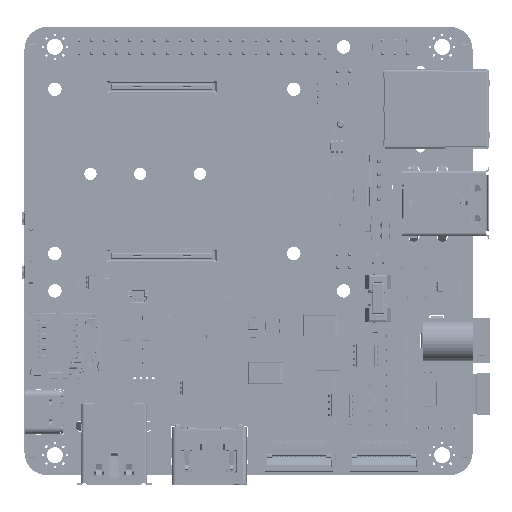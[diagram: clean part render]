
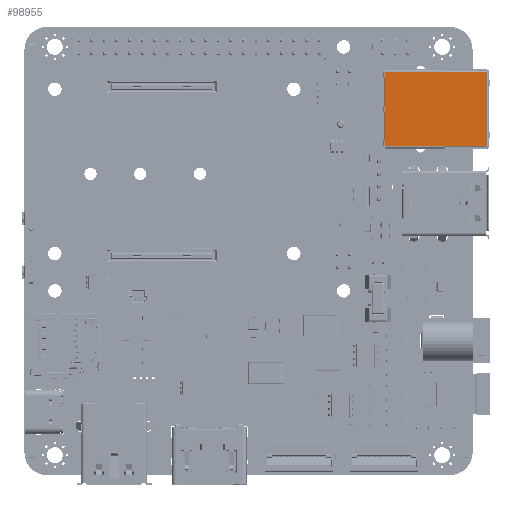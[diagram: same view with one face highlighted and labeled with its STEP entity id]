
A CAD part, top view. The second image highlights one B-rep face of the part: STEP entity #98955.
In plain terms, the highlighted planar face has unit normal (0, 0, 1) as drawn and (0, 1, 0) by its records, which use the part's own axes.
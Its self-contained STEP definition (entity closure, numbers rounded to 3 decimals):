
#96891 = VERTEX_POINT('',#96892);
#96892 = CARTESIAN_POINT('',(0.65,13.65,-10.225));
#96898 = EDGE_CURVE('',#96899,#96891,#96901,.T.);
#96899 = VERTEX_POINT('',#96900);
#96900 = CARTESIAN_POINT('',(0.65,13.65,-10.125));
#96901 = LINE('',#96902,#96903);
#96902 = CARTESIAN_POINT('',(0.65,13.65,-10.125));
#96903 = VECTOR('',#96904,1.);
#96904 = DIRECTION('',(0.,0.,-1.));
#97000 = EDGE_CURVE('',#97001,#97003,#97005,.T.);
#97001 = VERTEX_POINT('',#97002);
#97002 = CARTESIAN_POINT('',(6.15,13.65,-10.125));
#97003 = VERTEX_POINT('',#97004);
#97004 = CARTESIAN_POINT('',(6.15,13.65,-10.225));
#97005 = LINE('',#97006,#97007);
#97006 = CARTESIAN_POINT('',(6.15,13.65,-10.125));
#97007 = VECTOR('',#97008,1.);
#97008 = DIRECTION('',(0.,0.,-1.));
#97080 = EDGE_CURVE('',#97081,#97083,#97085,.T.);
#97081 = VERTEX_POINT('',#97082);
#97082 = CARTESIAN_POINT('',(-0.65,13.65,-10.125));
#97083 = VERTEX_POINT('',#97084);
#97084 = CARTESIAN_POINT('',(-0.65,13.65,-10.225));
#97085 = LINE('',#97086,#97087);
#97086 = CARTESIAN_POINT('',(-0.65,13.65,-10.125));
#97087 = VECTOR('',#97088,1.);
#97088 = DIRECTION('',(0.,0.,-1.));
#97131 = VERTEX_POINT('',#97132);
#97132 = CARTESIAN_POINT('',(-6.15,13.65,-10.225));
#97138 = EDGE_CURVE('',#97139,#97131,#97141,.T.);
#97139 = VERTEX_POINT('',#97140);
#97140 = CARTESIAN_POINT('',(-6.15,13.65,-10.125));
#97141 = LINE('',#97142,#97143);
#97142 = CARTESIAN_POINT('',(-6.15,13.65,-10.125));
#97143 = VECTOR('',#97144,1.);
#97144 = DIRECTION('',(0.,0.,-1.));
#97207 = EDGE_CURVE('',#97208,#97003,#97210,.T.);
#97208 = VERTEX_POINT('',#97209);
#97209 = CARTESIAN_POINT('',(7.4,13.65,-10.225));
#97210 = LINE('',#97211,#97212);
#97211 = CARTESIAN_POINT('',(0.,13.65,-10.225));
#97212 = VECTOR('',#97213,1.);
#97213 = DIRECTION('',(-1.,0.,0.));
#97254 = VERTEX_POINT('',#97255);
#97255 = CARTESIAN_POINT('',(-7.4,13.65,-10.225));
#97262 = EDGE_CURVE('',#97131,#97254,#97263,.T.);
#97263 = LINE('',#97264,#97265);
#97264 = CARTESIAN_POINT('',(0.,13.65,-10.225));
#97265 = VECTOR('',#97266,1.);
#97266 = DIRECTION('',(-1.,0.,0.));
#97678 = VERTEX_POINT('',#97679);
#97679 = CARTESIAN_POINT('',(7.4,13.65,1.775));
#97685 = EDGE_CURVE('',#97686,#97678,#97688,.T.);
#97686 = VERTEX_POINT('',#97687);
#97687 = CARTESIAN_POINT('',(7.4,13.65,10.225));
#97688 = LINE('',#97689,#97690);
#97689 = CARTESIAN_POINT('',(7.4,13.65,0.));
#97690 = VECTOR('',#97691,1.);
#97691 = DIRECTION('',(0.,0.,-1.));
#97716 = VERTEX_POINT('',#97717);
#97717 = CARTESIAN_POINT('',(-7.4,13.65,-10.125));
#97723 = EDGE_CURVE('',#97254,#97716,#97724,.T.);
#97724 = LINE('',#97725,#97726);
#97725 = CARTESIAN_POINT('',(-7.4,13.65,0.));
#97726 = VECTOR('',#97727,1.);
#97727 = DIRECTION('',(0.,0.,1.));
#98804 = VERTEX_POINT('',#98805);
#98805 = CARTESIAN_POINT('',(-7.4,13.65,10.225));
#98860 = EDGE_CURVE('',#97686,#98804,#98861,.T.);
#98861 = LINE('',#98862,#98863);
#98862 = CARTESIAN_POINT('',(-7.4,13.65,10.225));
#98863 = VECTOR('',#98864,1.);
#98864 = DIRECTION('',(-1.,0.,0.));
#98892 = EDGE_CURVE('',#98893,#98804,#98895,.T.);
#98893 = VERTEX_POINT('',#98894);
#98894 = CARTESIAN_POINT('',(-7.4,13.65,1.775));
#98895 = LINE('',#98896,#98897);
#98896 = CARTESIAN_POINT('',(-7.4,13.65,0.));
#98897 = VECTOR('',#98898,1.);
#98898 = DIRECTION('',(0.,0.,1.));
#98923 = EDGE_CURVE('',#98924,#97208,#98926,.T.);
#98924 = VERTEX_POINT('',#98925);
#98925 = CARTESIAN_POINT('',(7.4,13.65,-10.125));
#98926 = LINE('',#98927,#98928);
#98927 = CARTESIAN_POINT('',(7.4,13.65,0.));
#98928 = VECTOR('',#98929,1.);
#98929 = DIRECTION('',(0.,0.,-1.));
#98955 = ADVANCED_FACE('',(#98956),#99031,.F.);
#98956 = FACE_BOUND('',#98957,.T.);
#98957 = EDGE_LOOP('',(#98958,#98959,#98960,#98966,#98967,#98973,#98974,
    #98980,#98981,#98982,#98983,#98991,#98999,#99005,#99006,#99007,
    #99008,#99016,#99024,#99030));
#98958 = ORIENTED_EDGE('',*,*,#97207,.T.);
#98959 = ORIENTED_EDGE('',*,*,#97000,.F.);
#98960 = ORIENTED_EDGE('',*,*,#98961,.F.);
#98961 = EDGE_CURVE('',#96899,#97001,#98962,.T.);
#98962 = LINE('',#98963,#98964);
#98963 = CARTESIAN_POINT('',(6.15,13.65,-10.125));
#98964 = VECTOR('',#98965,1.);
#98965 = DIRECTION('',(1.,-0.,-0.));
#98966 = ORIENTED_EDGE('',*,*,#96898,.T.);
#98967 = ORIENTED_EDGE('',*,*,#98968,.T.);
#98968 = EDGE_CURVE('',#96891,#97083,#98969,.T.);
#98969 = LINE('',#98970,#98971);
#98970 = CARTESIAN_POINT('',(0.,13.65,-10.225));
#98971 = VECTOR('',#98972,1.);
#98972 = DIRECTION('',(-1.,0.,0.));
#98973 = ORIENTED_EDGE('',*,*,#97080,.F.);
#98974 = ORIENTED_EDGE('',*,*,#98975,.F.);
#98975 = EDGE_CURVE('',#97139,#97081,#98976,.T.);
#98976 = LINE('',#98977,#98978);
#98977 = CARTESIAN_POINT('',(-6.15,13.65,-10.125));
#98978 = VECTOR('',#98979,1.);
#98979 = DIRECTION('',(1.,0.,0.));
#98980 = ORIENTED_EDGE('',*,*,#97138,.T.);
#98981 = ORIENTED_EDGE('',*,*,#97262,.T.);
#98982 = ORIENTED_EDGE('',*,*,#97723,.T.);
#98983 = ORIENTED_EDGE('',*,*,#98984,.T.);
#98984 = EDGE_CURVE('',#97716,#98985,#98987,.T.);
#98985 = VERTEX_POINT('',#98986);
#98986 = CARTESIAN_POINT('',(-7.5,13.65,-10.125));
#98987 = LINE('',#98988,#98989);
#98988 = CARTESIAN_POINT('',(-7.4,13.65,-10.125));
#98989 = VECTOR('',#98990,1.);
#98990 = DIRECTION('',(-1.,0.,0.));
#98991 = ORIENTED_EDGE('',*,*,#98992,.T.);
#98992 = EDGE_CURVE('',#98985,#98993,#98995,.T.);
#98993 = VERTEX_POINT('',#98994);
#98994 = CARTESIAN_POINT('',(-7.5,13.65,1.775));
#98995 = LINE('',#98996,#98997);
#98996 = CARTESIAN_POINT('',(-7.5,13.65,-10.125));
#98997 = VECTOR('',#98998,1.);
#98998 = DIRECTION('',(0.,0.,1.));
#98999 = ORIENTED_EDGE('',*,*,#99000,.T.);
#99000 = EDGE_CURVE('',#98993,#98893,#99001,.T.);
#99001 = LINE('',#99002,#99003);
#99002 = CARTESIAN_POINT('',(-7.4,13.65,1.775));
#99003 = VECTOR('',#99004,1.);
#99004 = DIRECTION('',(1.,-0.,0.));
#99005 = ORIENTED_EDGE('',*,*,#98892,.T.);
#99006 = ORIENTED_EDGE('',*,*,#98860,.F.);
#99007 = ORIENTED_EDGE('',*,*,#97685,.T.);
#99008 = ORIENTED_EDGE('',*,*,#99009,.T.);
#99009 = EDGE_CURVE('',#97678,#99010,#99012,.T.);
#99010 = VERTEX_POINT('',#99011);
#99011 = CARTESIAN_POINT('',(7.5,13.65,1.775));
#99012 = LINE('',#99013,#99014);
#99013 = CARTESIAN_POINT('',(7.4,13.65,1.775));
#99014 = VECTOR('',#99015,1.);
#99015 = DIRECTION('',(1.,0.,0.));
#99016 = ORIENTED_EDGE('',*,*,#99017,.T.);
#99017 = EDGE_CURVE('',#99010,#99018,#99020,.T.);
#99018 = VERTEX_POINT('',#99019);
#99019 = CARTESIAN_POINT('',(7.5,13.65,-10.125));
#99020 = LINE('',#99021,#99022);
#99021 = CARTESIAN_POINT('',(7.5,13.65,-10.125));
#99022 = VECTOR('',#99023,1.);
#99023 = DIRECTION('',(0.,0.,-1.));
#99024 = ORIENTED_EDGE('',*,*,#99025,.T.);
#99025 = EDGE_CURVE('',#99018,#98924,#99026,.T.);
#99026 = LINE('',#99027,#99028);
#99027 = CARTESIAN_POINT('',(7.4,13.65,-10.125));
#99028 = VECTOR('',#99029,1.);
#99029 = DIRECTION('',(-1.,-0.,-0.));
#99030 = ORIENTED_EDGE('',*,*,#98923,.T.);
#99031 = PLANE('',#99032);
#99032 = AXIS2_PLACEMENT_3D('',#99033,#99034,#99035);
#99033 = CARTESIAN_POINT('',(0.,13.65,
    0.));
#99034 = DIRECTION('',(0.,-1.,0.));
#99035 = DIRECTION('',(0.,0.,-1.));
